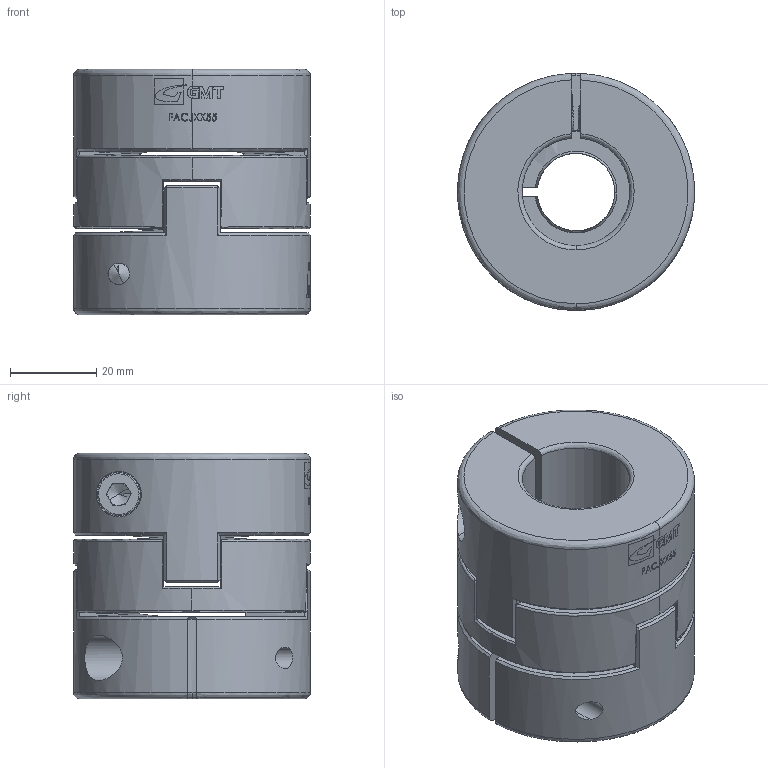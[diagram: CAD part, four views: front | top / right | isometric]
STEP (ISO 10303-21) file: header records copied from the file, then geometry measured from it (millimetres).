
FILE_DESCRIPTION (( 'STEP AP203' ), '1' );
FILE_NAME ('FACJ55.STEP', '2008-04-04T08:38:52', ( '陳志豪' ), ( '高明鐵企業股份有限公司' ), 'SwSTEP 2.0', 'SolidWorks 2007', '' );
FILE_SCHEMA (( 'CONFIG_CONTROL_DESIGN' ));
Length unit declared in the file: millimetre
Products named in the file (1): FACJ55
Bounding box: 55 x 55 x 57 mm (x, y, z)
Surface area: 27663.5 mm2 (no closed solid volume)
Topology: 0 solids, 7 shells, 280 faces, 937 edges, 666 vertices
Faces by surface type: plane 126, bspline 66, cylinder 56, cone 32
Entity records: 15240 total; most frequent: CARTESIAN_POINT 8360, ORIENTED_EDGE 1760, EDGE_CURVE 922, DIRECTION 833, VERTEX_POINT 658, B_SPLINE_CURVE_WITH_KNOTS 588, EDGE_LOOP 314, AXIS2_PLACEMENT_3D 294
